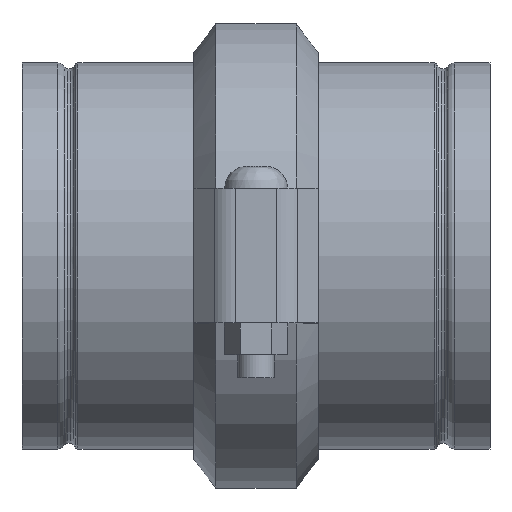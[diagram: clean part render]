
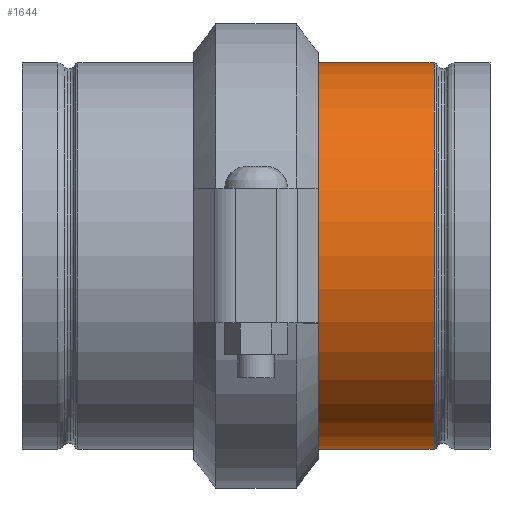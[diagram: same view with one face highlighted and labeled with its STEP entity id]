
A CAD part, top view. The second image highlights one B-rep face of the part: STEP entity #1644.
In plain terms, the highlighted cylindrical face has radius 84.138 mm (diameter 168.275 mm), a full revolution.
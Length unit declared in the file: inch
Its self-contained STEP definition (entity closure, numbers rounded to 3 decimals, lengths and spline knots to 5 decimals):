
#51=LINE('',#2687,#142);
#142=VECTOR('',#2160,3.3125);
#233=CYLINDRICAL_SURFACE('',#1854,3.3125);
#325=FACE_OUTER_BOUND('',#416,.T.);
#416=EDGE_LOOP('',(#1144,#1145,#1146,#1147,#1148,#1149,#1150,#1151));
#547=CIRCLE('',#1850,3.3125);
#548=CIRCLE('',#1851,3.3125);
#550=CIRCLE('',#1853,3.3125);
#551=CIRCLE('',#1855,3.3125);
#552=CIRCLE('',#1856,3.3125);
#553=CIRCLE('',#1857,3.3125);
#680=VERTEX_POINT('',#2674);
#681=VERTEX_POINT('',#2675);
#682=VERTEX_POINT('',#2677);
#683=VERTEX_POINT('',#2682);
#684=VERTEX_POINT('',#2683);
#685=VERTEX_POINT('',#2685);
#859=EDGE_CURVE('',#680,#681,#547,.T.);
#860=EDGE_CURVE('',#681,#682,#548,.T.);
#862=EDGE_CURVE('',#682,#680,#550,.T.);
#863=EDGE_CURVE('',#683,#684,#551,.T.);
#864=EDGE_CURVE('',#685,#683,#552,.T.);
#865=EDGE_CURVE('',#685,#681,#51,.T.);
#866=EDGE_CURVE('',#684,#685,#553,.T.);
#1144=ORIENTED_EDGE('',*,*,#863,.F.);
#1145=ORIENTED_EDGE('',*,*,#864,.F.);
#1146=ORIENTED_EDGE('',*,*,#865,.T.);
#1147=ORIENTED_EDGE('',*,*,#859,.F.);
#1148=ORIENTED_EDGE('',*,*,#862,.F.);
#1149=ORIENTED_EDGE('',*,*,#860,.F.);
#1150=ORIENTED_EDGE('',*,*,#865,.F.);
#1151=ORIENTED_EDGE('',*,*,#866,.F.);
#1644=ADVANCED_FACE('',(#325),#233,.T.);
#1850=AXIS2_PLACEMENT_3D('',#2676,#2146,#2147);
#1851=AXIS2_PLACEMENT_3D('',#2678,#2148,#2149);
#1853=AXIS2_PLACEMENT_3D('',#2680,#2152,#2153);
#1854=AXIS2_PLACEMENT_3D('',#2681,#2154,#2155);
#1855=AXIS2_PLACEMENT_3D('',#2684,#2156,#2157);
#1856=AXIS2_PLACEMENT_3D('',#2686,#2158,#2159);
#1857=AXIS2_PLACEMENT_3D('',#2688,#2161,#2162);
#2146=DIRECTION('center_axis',(-1.,0.,0.));
#2147=DIRECTION('ref_axis',(0.,-1.,0.));
#2148=DIRECTION('center_axis',(-1.,0.,0.));
#2149=DIRECTION('ref_axis',(0.,-1.,0.));
#2152=DIRECTION('center_axis',(-1.,0.,0.));
#2153=DIRECTION('ref_axis',(0.,-1.,0.));
#2154=DIRECTION('center_axis',(1.,0.,0.));
#2155=DIRECTION('ref_axis',(0.,1.,0.));
#2156=DIRECTION('center_axis',(1.,0.,0.));
#2157=DIRECTION('ref_axis',(0.,-1.,0.));
#2158=DIRECTION('center_axis',(1.,0.,0.));
#2159=DIRECTION('ref_axis',(0.,-1.,0.));
#2160=DIRECTION('',(-1.,0.,0.));
#2161=DIRECTION('center_axis',(1.,0.,0.));
#2162=DIRECTION('ref_axis',(0.,-1.,0.));
#2674=CARTESIAN_POINT('',(0.999,3.3125,0.));
#2675=CARTESIAN_POINT('',(0.999,-3.3125,0.));
#2676=CARTESIAN_POINT('Origin',(0.999,0.,0.));
#2677=CARTESIAN_POINT('',(0.999,0.,3.3125));
#2678=CARTESIAN_POINT('Origin',(0.999,0.,0.));
#2680=CARTESIAN_POINT('Origin',(0.999,0.,0.));
#2681=CARTESIAN_POINT('Origin',(2.02001,0.,0.));
#2682=CARTESIAN_POINT('',(3.0398,3.3125,0.));
#2683=CARTESIAN_POINT('',(3.0398,0.,3.3125));
#2684=CARTESIAN_POINT('Origin',(3.0398,0.,0.));
#2685=CARTESIAN_POINT('',(3.0398,-3.3125,0.));
#2686=CARTESIAN_POINT('Origin',(3.0398,0.,0.));
#2687=CARTESIAN_POINT('',(2.02001,-3.3125,0.));
#2688=CARTESIAN_POINT('Origin',(3.0398,0.,0.));
